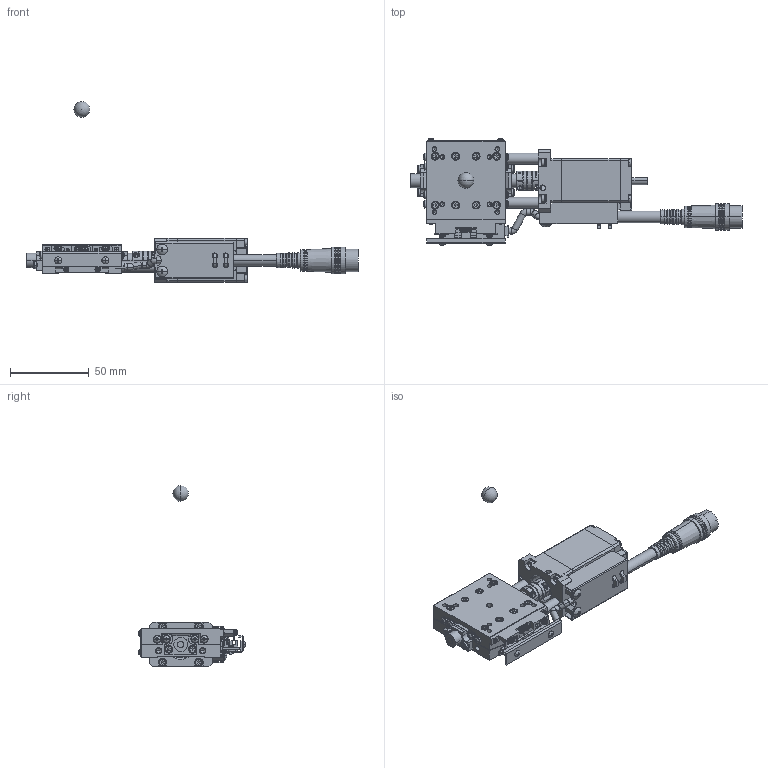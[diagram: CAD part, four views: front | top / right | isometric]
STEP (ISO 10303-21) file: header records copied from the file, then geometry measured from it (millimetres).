
FILE_DESCRIPTION (( 'STEP AP203' ), '1' );
FILE_NAME ('SA05B-RB02-R.STEP', '2019-02-20T06:38:09', ( '' ), ( '' ), 'SwSTEP 2.0', 'SolidWorks 2018', '' );
FILE_SCHEMA (( 'CONFIG_CONTROL_DESIGN' ));
Length unit declared in the file: millimetre
Products named in the file (7): base; base-Part-1; base-Part-2; table; base-Part-3; SA05B-RB02-R; rotation center
Assembly tree (6 placements, depth 3):
  SA05B-RB02-R
    base
      base-Part-1
      base-Part-2
      base-Part-3
    rotation center
    table
Bounding box: 211 x 67.96 x 115 mm (x, y, z)
Volume: 108549.4 mm3; surface area: 48396.5 mm2
Topology: 5 solids, 9 shells, 2703 faces, 6771 edges, 4197 vertices
Faces by surface type: plane 1665, cylinder 632, cone 222, torus 128, sphere 50, bspline 6
Entity records: 82690 total; most frequent: CARTESIAN_POINT 16235, DIRECTION 14229, ORIENTED_EDGE 13340, EDGE_CURVE 6670, AXIS2_PLACEMENT_3D 5008, LINE 4213, VECTOR 4213, VERTEX_POINT 4190
